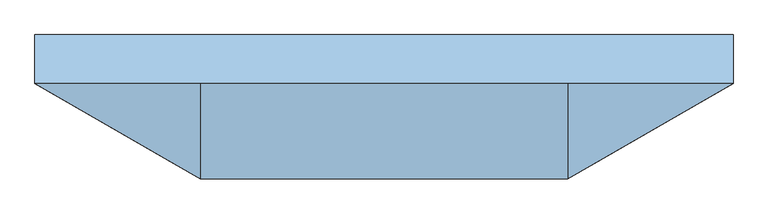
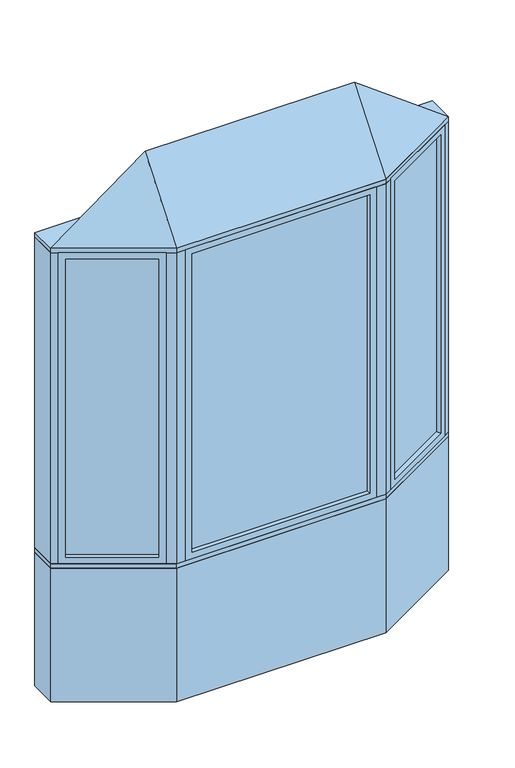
"""IFC4 building model written with IfcOpenShell, lengths in millimetres: window geometry, Pollard_Windows_Tudor Casement Bows and Bays : AML-BAY 30 AFR0518-12-500."""

from ifc_helpers import new_model, si_unit, frame, origin, origin_with_axes, place, context, project, spatial, polyline, outline, extrude, faceted_brep, source, transform, mapped, element, save


def window_27e10596(model_context):
    return source(origin(), model_context, "Body", "SolidModel", [
        extrude(outline(polyline([(1026.612102, -82.0482469), (623.7320119, -314.6511754), (621.1920119, -310.2517664), (1024.072102, -77.6488379), (1026.612102, -82.0482469)])), frame((0.0, 0.0, 823.1628), z_axis=(0.0, 0.0, 1.0), x_axis=(1.0, 0.0, 0.0)), (0.0, 0.0, 1.0), 1753.6704),
        faceted_brep([(1015.6135794, -88.3982469, 835.8628), (1028.3135794, -110.3952922, 835.8628), (1028.3135794, -110.3952922, 2564.1332), (1015.6135794, -88.3982469, 2564.1332), (1024.072102, -77.6488379, 823.1628), (1026.612102, -82.0482469, 823.1628), (1026.612102, -82.0482469, 2576.8332), (1024.072102, -77.6488379, 2576.8332), (1000.3735794, -62.0017926, 835.8628), (1013.0735794, -83.9988379, 835.8628), (1013.0735794, -83.9988379, 2564.1332), (1000.3735794, -62.0017926, 2564.1332), (1059.3734073, -92.4628922, 799.998), (1031.4334073, -44.0693926, 799.998), (1031.4334073, -44.0693926, 2599.998), (1059.3734073, -92.4628922, 2599.998), (647.4305346, -330.2982207, 2564.1332), (634.7305346, -308.3011754, 2564.1332), (623.7320119, -314.6511754, 2576.8332), (621.1920119, -310.2517664, 2576.8332), (632.1905346, -303.9017664, 2564.1332), (619.4905346, -281.9047211, 2564.1332), (588.4307067, -299.8371211, 2599.998), (616.3707067, -348.2306207, 2599.998), (647.4305346, -330.2982207, 835.8628), (634.7305346, -308.3011754, 835.8628), (623.7320119, -314.6511754, 823.1628), (621.1920119, -310.2517664, 823.1628), (632.1905346, -303.9017664, 835.8628), (619.4905346, -281.9047211, 835.8628), (588.4307067, -299.8371211, 799.998), (616.3707067, -348.2306207, 799.998)], [[[0, 1, 2, 3]], [[4, 5, 6, 7]], [[8, 9, 10, 11]], [[12, 13, 14, 15]], [[3, 2, 16, 17]], [[7, 6, 18, 19]], [[11, 10, 20, 21]], [[15, 14, 22, 23]], [[17, 16, 24, 25]], [[19, 18, 26, 27]], [[21, 20, 28, 29]], [[23, 22, 30, 31]], [[25, 24, 1, 0]], [[5, 26, 18, 6], [3, 17, 25, 0]], [[27, 26, 5, 4]], [[7, 19, 27, 4], [9, 28, 20, 10]], [[29, 28, 9, 8]], [[13, 30, 22, 14], [11, 21, 29, 8]], [[31, 30, 13, 12]], [[15, 23, 31, 12], [1, 24, 16, 2]]]),
        extrude(outline(polyline([(-623.7320119, -314.6511754), (-1026.612102, -82.0482469), (-1024.072102, -77.6488379), (-621.1920119, -310.2517664), (-623.7320119, -314.6511754)])), frame((0.0, 0.0, 823.1628), z_axis=(0.0, 0.0, 1.0), x_axis=(1.0, 0.0, 0.0)), (0.0, 0.0, 1.0), 1753.6704),
        faceted_brep([(-632.1905346, -303.9017664, 2564.1332), (-619.4905346, -281.9047211, 2564.1332), (-619.4905346, -281.9047211, 835.8628), (-632.1905346, -303.9017664, 835.8628), (-623.7320119, -314.6511754, 2576.8332), (-621.1920119, -310.2517664, 2576.8332), (-621.1920119, -310.2517664, 823.1628), (-623.7320119, -314.6511754, 823.1628), (-647.4305346, -330.2982207, 2564.1332), (-634.7305346, -308.3011754, 2564.1332), (-634.7305346, -308.3011754, 835.8628), (-647.4305346, -330.2982207, 835.8628), (-588.4307067, -299.8371211, 2599.998), (-616.3707067, -348.2306207, 2599.998), (-616.3707067, -348.2306207, 799.998), (-588.4307067, -299.8371211, 799.998), (-1000.3735794, -62.0017926, 835.8628), (-1013.0735794, -83.9988379, 835.8628), (-1024.072102, -77.6488379, 823.1628), (-1026.612102, -82.0482469, 823.1628), (-1015.6135794, -88.3982469, 835.8628), (-1028.3135794, -110.3952922, 835.8628), (-1059.3734073, -92.4628922, 799.998), (-1031.4334073, -44.0693926, 799.998), (-1000.3735794, -62.0017926, 2564.1332), (-1013.0735794, -83.9988379, 2564.1332), (-1024.072102, -77.6488379, 2576.8332), (-1026.612102, -82.0482469, 2576.8332), (-1015.6135794, -88.3982469, 2564.1332), (-1028.3135794, -110.3952922, 2564.1332), (-1059.3734073, -92.4628922, 2599.998), (-1031.4334073, -44.0693926, 2599.998)], [[[0, 1, 2, 3]], [[4, 5, 6, 7]], [[8, 9, 10, 11]], [[12, 13, 14, 15]], [[3, 2, 16, 17]], [[7, 6, 18, 19]], [[11, 10, 20, 21]], [[15, 14, 22, 23]], [[17, 16, 24, 25]], [[19, 18, 26, 27]], [[21, 20, 28, 29]], [[23, 22, 30, 31]], [[15, 23, 31, 12], [1, 24, 16, 2]], [[25, 24, 1, 0]], [[5, 26, 18, 6], [3, 17, 25, 0]], [[27, 26, 5, 4]], [[7, 19, 27, 4], [9, 28, 20, 10]], [[29, 28, 9, 8]], [[13, 30, 22, 14], [11, 21, 29, 8]], [[31, 30, 13, 12]]]),
        extrude(outline(polyline([(499.9046365, -347.8306207), (-499.9046365, -347.8306207), (-499.9046365, -342.7506207), (499.9046365, -342.7506207), (499.9046365, -347.8306207)])), frame((0.0, 0.0, 823.1628), z_axis=(0.0, 0.0, 1.0), x_axis=(1.0, 0.0, 0.0)), (0.0, 0.0, 1.0), 1753.6704),
        faceted_brep([(487.2046365, -347.8306207, 835.8628), (487.2046365, -373.2306207, 835.8628), (487.2046365, -373.2306207, 2564.1332), (487.2046365, -347.8306207, 2564.1332), (499.9046365, -342.7506207, 823.1628), (499.9046365, -347.8306207, 823.1628), (499.9046365, -347.8306207, 2576.8332), (499.9046365, -342.7506207, 2576.8332), (487.2046365, -317.3506207, 835.8628), (487.2046365, -342.7506207, 835.8628), (487.2046365, -342.7506207, 2564.1332), (487.2046365, -317.3506207, 2564.1332), (523.0694365, -373.2306207, 799.998), (523.0694365, -317.3506207, 799.998), (523.0694365, -317.3506207, 2599.998), (523.0694365, -373.2306207, 2599.998), (-487.2046365, -373.2306207, 2564.1332), (-487.2046365, -347.8306207, 2564.1332), (-499.9046365, -347.8306207, 2576.8332), (-499.9046365, -342.7506207, 2576.8332), (-487.2046365, -342.7506207, 2564.1332), (-487.2046365, -317.3506207, 2564.1332), (-523.0694365, -317.3506207, 2599.998), (-523.0694365, -373.2306207, 2599.998), (-487.2046365, -373.2306207, 835.8628), (-487.2046365, -347.8306207, 835.8628), (-499.9046365, -347.8306207, 823.1628), (-499.9046365, -342.7506207, 823.1628), (-487.2046365, -342.7506207, 835.8628), (-487.2046365, -317.3506207, 835.8628), (-523.0694365, -317.3506207, 799.998), (-523.0694365, -373.2306207, 799.998)], [[[0, 1, 2, 3]], [[4, 5, 6, 7]], [[8, 9, 10, 11]], [[12, 13, 14, 15]], [[3, 2, 16, 17]], [[7, 6, 18, 19]], [[11, 10, 20, 21]], [[15, 14, 22, 23]], [[17, 16, 24, 25]], [[19, 18, 26, 27]], [[21, 20, 28, 29]], [[23, 22, 30, 31]], [[15, 23, 31, 12], [1, 24, 16, 2]], [[25, 24, 1, 0]], [[5, 26, 18, 6], [3, 17, 25, 0]], [[27, 26, 5, 4]], [[7, 19, 27, 4], [9, 28, 20, 10]], [[29, 28, 9, 8]], [[13, 30, 22, 14], [11, 21, 29, 8]], [[31, 30, 13, 12]]]),
        faceted_brep([(1090.0, -74.7806207, 2625.398), (573.0694365, -373.2306207, 2625.398), (-573.0694365, -373.2306207, 2625.398), (-1090.0, -74.7806207, 2625.398), (-573.0694365, -74.7806207, 3006.398), (573.0694365, -74.7806207, 3006.398)], [[[0, 1, 2, 3]], [[3, 2, 4]], [[2, 1, 5, 4]], [[1, 0, 5]], [[0, 3, 4, 5]]]),
        extrude(outline(polyline([(-1090.0, 77.6193793), (1090.0, 77.6193793), (1090.0, -74.7806207), (573.0694365, -373.2306207), (-573.0694365, -373.2306207), (-1090.0, -74.7806207), (-1090.0, 77.6193793)])), frame((0.0, 0.0, 2599.998), z_axis=(0.0, 0.0, 1.0), x_axis=(1.0, 0.0, 0.0)), (0.0, 0.0, 1.0), 25.4),
        extrude(outline(polyline([(-1090.0, -74.7806207), (-1090.0, 77.6193793), (-1049.1645431, 77.6193793), (-1049.1645431, -74.7806207), (-1059.3734073, -92.4628922), (-1090.0, -74.7806207)])), frame((0.0, 0.0, 799.998), z_axis=(0.0, 0.0, 1.0), x_axis=(1.0, 0.0, 0.0)), (0.0, 0.0, 1.0), 1800.0),
        extrude(outline(polyline([(1090.0, 77.6193793), (1090.0, -74.7806207), (1059.3734073, -92.4628922), (1049.1645431, -74.7806207), (1049.1645431, 77.6193793), (1090.0, 77.6193793)])), frame((0.0, 0.0, 799.998), z_axis=(0.0, 0.0, 1.0), x_axis=(1.0, 0.0, 0.0)), (0.0, 0.0, 1.0), 1800.0),
        extrude(outline(polyline([(573.0694365, -373.2306207), (523.0694365, -373.2306207), (523.0694365, -323.2306207), (559.6719769, -323.2306207), (591.3707067, -304.9293505), (616.3707067, -348.2306207), (573.0694365, -373.2306207)])), frame((0.0, 0.0, 799.998), z_axis=(0.0, 0.0, 1.0), x_axis=(1.0, 0.0, 0.0)), (0.0, 0.0, 1.0), 1800.0),
        extrude(outline(polyline([(-573.0694365, -373.2306207), (-616.3707067, -348.2306207), (-591.3707067, -304.9293505), (-559.6719769, -323.2306207), (-523.0694365, -323.2306207), (-523.0694365, -373.2306207), (-573.0694365, -373.2306207)])), frame((0.0, 0.0, 799.998), z_axis=(0.0, 0.0, 1.0), x_axis=(1.0, 0.0, 0.0)), (0.0, 0.0, 1.0), 1800.0),
        extrude(outline(polyline([(-573.0694365, -373.2306207), (-1090.0, -74.7806207), (-1090.0, 77.6193793), (-1049.1645431, 77.6193793), (-532.2339796, -220.8306207), (532.2339796, -220.8306207), (1049.1645431, 77.6193793), (1090.0, 77.6193793), (1090.0, -74.7806207), (573.0694365, -373.2306207), (-573.0694365, -373.2306207)])), frame((0.0, 0.0, 774.598), z_axis=(0.0, 0.0, 1.0), x_axis=(1.0, 0.0, 0.0)), (0.0, 0.0, 1.0), 25.4),
        extrude(outline(polyline([(-1090.0, -74.7806207), (-1090.0, 77.6193793), (-1049.1645431, 77.6193793), (-532.2339796, -220.8306207), (532.2339796, -220.8306207), (1049.1645431, 77.6193793), (1090.0, 77.6193793), (1090.0, -74.7806207), (573.0694365, -373.2306207), (-573.0694365, -373.2306207), (-1090.0, -74.7806207)])), origin_with_axes(), (0.0, 0.0, 1.0), 774.598),
    ])


if __name__ == "__main__":
    model = new_model("IFC4")
    model_context = context("Model", 3, world=origin())
    ifc_project = project(units=[si_unit("LENGTHUNIT", "METRE", prefix="MILLI")], contexts=[model_context])
    site = spatial("IfcSite", under=ifc_project)
    building = spatial("IfcBuilding", under=site)
    placement = place(None, origin())
    window_shape = window_27e10596(model_context)
    element("IfcWindow", 1, ObjectType="Pollard_Windows_Tudor Casement Bows and Bays : AML-BAY 30 AFR0518-12-500", at=placement, inside=building, context=model_context, shape_type="MappedRepresentation", body=[
        mapped(window_shape, transform((0.0, 0.0, 0.0), x_axis=(1.0, 0.0, 0.0), y_axis=(0.0, 1.0, 0.0), z_axis=(0.0, 0.0, 1.0))),
    ])
    save(model, "model.ifc")
